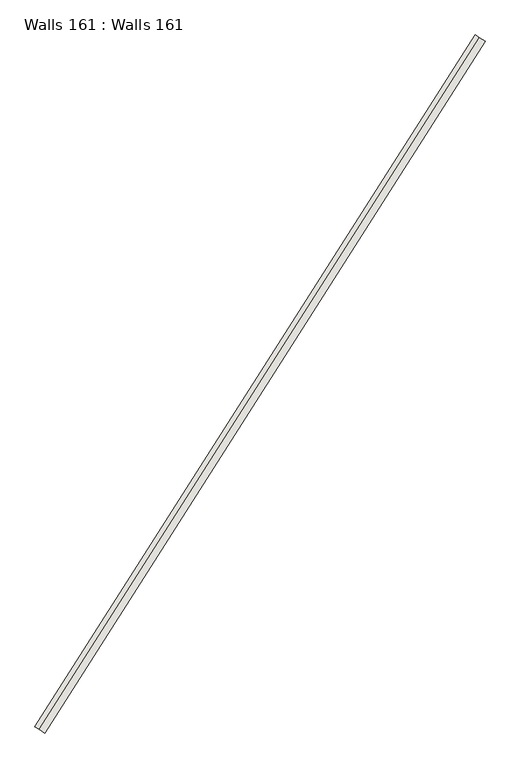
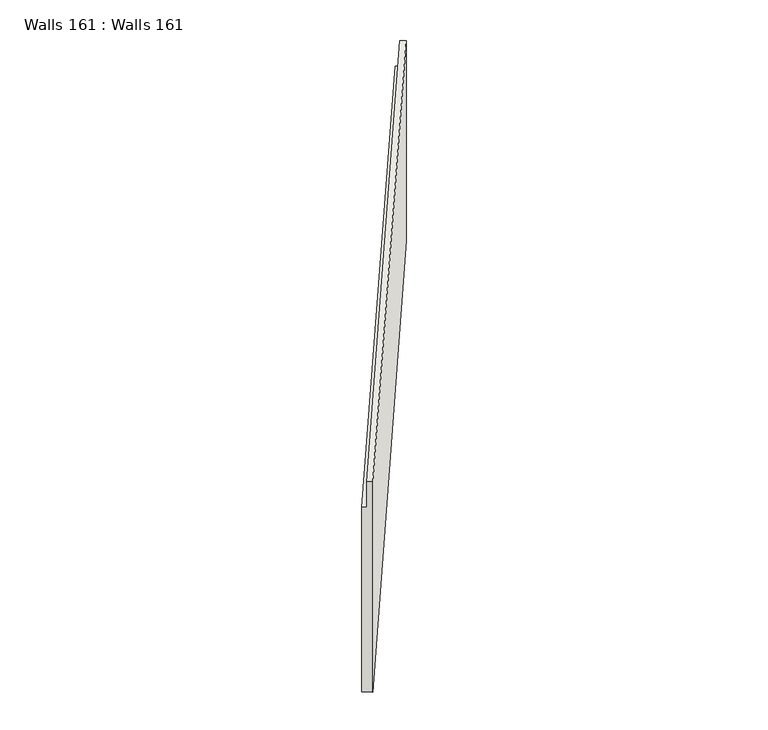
"""IFC4 building model written with IfcOpenShell, lengths in millimetres: wall geometry, Walls 161 : Walls 161."""

from ifc_helpers import new_model, si_unit, origin, place, context, project, spatial, faceted_brep, source, transform, mapped, element, save


def walls_161_walls_161_10038e24(model_context):
    return source(origin(), model_context, "Body", "Brep", [
        faceted_brep([(150802.8358392, 61422.7876506, 648170.1751545), (150802.8358392, 61422.7876506, 640989.9781818), (151098.1091628, 61234.8877375, 640989.9781818), (151098.1091628, 61234.8877375, 649170.1851545), (150929.3809471, 61342.2594996, 649170.1851545), (150929.3809471, 61342.2594996, 648170.1751545), (164063.5913632, 82261.2642369, 648049.99), (164190.1364711, 82180.7360859, 648049.99), (164190.1364711, 82180.7360859, 649050.0), (164358.8646868, 82073.3643238, 649050.0), (164358.8646868, 82073.3643238, 641270.0), (164063.5913632, 82261.2642369, 641270.0)], [[[0, 1, 2, 3, 4, 5]], [[6, 7, 8, 9, 10, 11]], [[6, 11, 1, 0]], [[11, 10, 2, 1]], [[10, 9, 3, 2]], [[9, 8, 4, 3]], [[8, 7, 5, 4]], [[7, 6, 0, 5]]]),
    ])


if __name__ == "__main__":
    model = new_model("IFC4")
    model_context = context("Model", 3, world=origin())
    ifc_project = project(units=[si_unit("LENGTHUNIT", "METRE", prefix="MILLI")], contexts=[model_context])
    site = spatial("IfcSite", under=ifc_project)
    building = spatial("IfcBuilding", under=site)
    placement = place(None, origin())
    walls_161_walls_161_shape = walls_161_walls_161_10038e24(model_context)
    element("IfcWall", 1, ObjectType="Walls 161 : Walls 161", at=placement, inside=building, context=model_context, shape_type="MappedRepresentation", body=[
        mapped(walls_161_walls_161_shape, transform((0.0, 0.0, 0.0), x_axis=(1.0, 0.0, 0.0), y_axis=(0.0, 1.0, 0.0), z_axis=(0.0, 0.0, 1.0))),
    ])
    save(model, "model.ifc")
